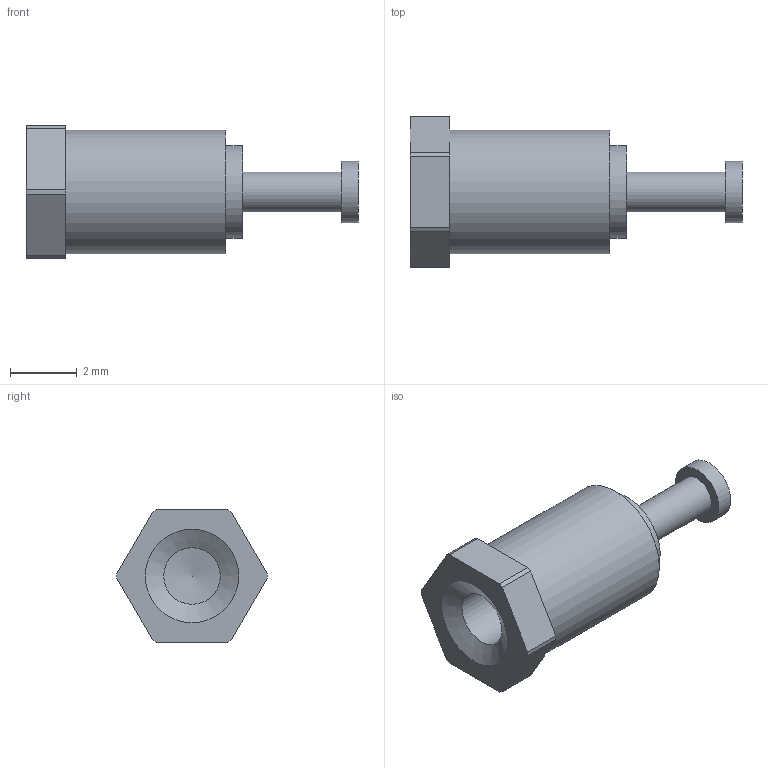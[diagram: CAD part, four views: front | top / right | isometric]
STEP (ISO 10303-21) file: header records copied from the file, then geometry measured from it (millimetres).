
FILE_DESCRIPTION(/* description */ (''),/* implementation_level */ '2;1');
FILE_NAME(/* name */ '\\Snap1\dwgs\Customer 3D Models\572\572-4872-01 Customer model.stp',/* time_stamp */ '2017-01-12T11:38:30+00:00',/* author */ ('paulk'),/* organization */ (''),/* preprocessor_version */ 'ST-DEVELOPER v15.2',/* originating_system */ 'Autodesk Inventor 2014',/* authorisation */ '');
FILE_SCHEMA (('CONFIG_CONTROL_DESIGN'));
Length unit declared in the file: millimetre
Products named in the file (1): 572-4872-01 Customer model
Bounding box: 9.93 x 4.5 x 3.96 mm (x, y, z)
Volume: 68.3 mm3; surface area: 134.8 mm2
Topology: 1 solids, 1 shells, 25 faces, 55 edges, 36 vertices
Faces by surface type: plane 12, cylinder 11, cone 2
Full cylindrical faces by diameter (mm): 1.194 x1, 1.694 x1, 1.829 x1, 2.769 x1, 3.708 x1
Entity records: 726 total; most frequent: DIRECTION 122, CARTESIAN_POINT 108, ORIENTED_EDGE 94, AXIS2_PLACEMENT_3D 49, EDGE_CURVE 47, EDGE_LOOP 36, VERTEX_POINT 35, STYLED_ITEM 26
